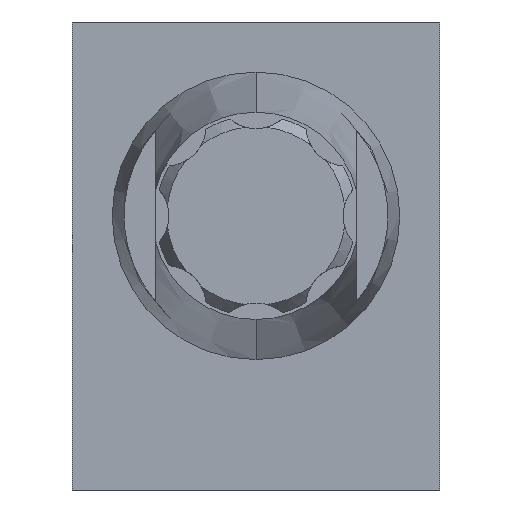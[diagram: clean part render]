
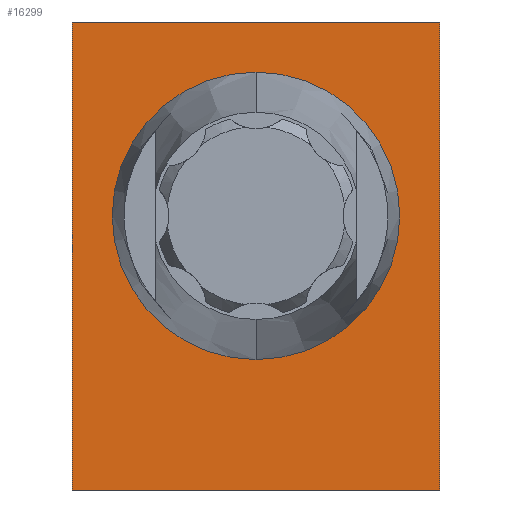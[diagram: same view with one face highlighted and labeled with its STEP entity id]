
A CAD part, left-side view. The second image highlights one B-rep face of the part: STEP entity #16299.
In plain terms, the highlighted planar face has unit normal (-1, 0, 0).
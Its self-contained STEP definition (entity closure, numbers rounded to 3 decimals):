
#63 = EDGE_CURVE ( 'NONE', #18638, #2881, #10608, .T. ) ;
#243 = EDGE_CURVE ( 'NONE', #2881, #18638, #16499, .T. ) ;
#295 = CARTESIAN_POINT ( 'NONE',  ( 0., 27.5, -50.5 ) ) ;
#837 = DIRECTION ( 'NONE',  ( 0., 0., 1. ) ) ;
#1206 = EDGE_LOOP ( 'NONE', ( #4706, #12461, #16789, #12179 ) ) ;
#1739 = ORIENTED_EDGE ( 'NONE', *, *, #243, .F. ) ;
#1908 = EDGE_CURVE ( 'NONE', #4051, #13345, #12808, .T. ) ;
#2454 = CARTESIAN_POINT ( 'NONE',  ( 0., 0., 0. ) ) ;
#2582 = CARTESIAN_POINT ( 'NONE',  ( 0., 27.5, -29. ) ) ;
#2881 = VERTEX_POINT ( 'NONE', #295 ) ;
#3536 = FACE_OUTER_BOUND ( 'NONE', #1206, .T. ) ;
#4031 = DIRECTION ( 'NONE',  ( 0., 0., -1. ) ) ;
#4051 = VERTEX_POINT ( 'NONE', #9977 ) ;
#4706 = ORIENTED_EDGE ( 'NONE', *, *, #7917, .T. ) ;
#5201 = PLANE ( 'NONE',  #15204 ) ;
#5341 = AXIS2_PLACEMENT_3D ( 'NONE', #17300, #8638, #18748 ) ;
#5385 = DIRECTION ( 'NONE',  ( 0., -1., 0. ) ) ;
#5483 = CARTESIAN_POINT ( 'NONE',  ( 0., 0., 0. ) ) ;
#5550 = CARTESIAN_POINT ( 'NONE',  ( 0., 55., 0. ) ) ;
#5735 = CARTESIAN_POINT ( 'NONE',  ( 0., 0., -70. ) ) ;
#5985 = CARTESIAN_POINT ( 'NONE',  ( 0., 55., -70. ) ) ;
#6237 = EDGE_LOOP ( 'NONE', ( #1739, #10157 ) ) ;
#6626 = DIRECTION ( 'NONE',  ( 0., 0., -1. ) ) ;
#7297 = FACE_BOUND ( 'NONE', #6237, .T. ) ;
#7917 = EDGE_CURVE ( 'NONE', #13401, #17668, #9415, .T. ) ;
#8089 = CARTESIAN_POINT ( 'NONE',  ( 0., 27.5, -7.5 ) ) ;
#8638 = DIRECTION ( 'NONE',  ( -1., 0., 0. ) ) ;
#8880 = DIRECTION ( 'NONE',  ( 0., -1., 0. ) ) ;
#9168 = EDGE_CURVE ( 'NONE', #4051, #13401, #10742, .T. ) ;
#9415 = LINE ( 'NONE', #5483, #9869 ) ;
#9471 = CARTESIAN_POINT ( 'NONE',  ( 0., 55., 0. ) ) ;
#9869 = VECTOR ( 'NONE', #15596, 1000. ) ;
#9977 = CARTESIAN_POINT ( 'NONE',  ( 0., 55., -70. ) ) ;
#10157 = ORIENTED_EDGE ( 'NONE', *, *, #63, .F. ) ;
#10608 = CIRCLE ( 'NONE', #13419, 21.5 ) ;
#10742 = LINE ( 'NONE', #5985, #13660 ) ;
#12179 = ORIENTED_EDGE ( 'NONE', *, *, #9168, .T. ) ;
#12461 = ORIENTED_EDGE ( 'NONE', *, *, #16432, .F. ) ;
#12610 = DIRECTION ( 'NONE',  ( -1., 0., 0. ) ) ;
#12808 = LINE ( 'NONE', #15224, #16236 ) ;
#13345 = VERTEX_POINT ( 'NONE', #5550 ) ;
#13401 = VERTEX_POINT ( 'NONE', #5735 ) ;
#13419 = AXIS2_PLACEMENT_3D ( 'NONE', #2582, #12610, #4031 ) ;
#13660 = VECTOR ( 'NONE', #8880, 1000. ) ;
#15204 = AXIS2_PLACEMENT_3D ( 'NONE', #9471, #15285, #6626 ) ;
#15224 = CARTESIAN_POINT ( 'NONE',  ( 0., 55., 0. ) ) ;
#15285 = DIRECTION ( 'NONE',  ( 1., 0., 0. ) ) ;
#15596 = DIRECTION ( 'NONE',  ( 0., 0., 1. ) ) ;
#16117 = VECTOR ( 'NONE', #5385, 1000. ) ;
#16236 = VECTOR ( 'NONE', #837, 1000. ) ;
#16299 = ADVANCED_FACE ( 'NONE', ( #3536, #7297 ), #5201, .F. ) ;
#16432 = EDGE_CURVE ( 'NONE', #13345, #17668, #16559, .T. ) ;
#16499 = CIRCLE ( 'NONE', #5341, 21.5 ) ;
#16559 = LINE ( 'NONE', #16933, #16117 ) ;
#16789 = ORIENTED_EDGE ( 'NONE', *, *, #1908, .F. ) ;
#16933 = CARTESIAN_POINT ( 'NONE',  ( 0., 55., 0. ) ) ;
#17300 = CARTESIAN_POINT ( 'NONE',  ( 0., 27.5, -29. ) ) ;
#17668 = VERTEX_POINT ( 'NONE', #2454 ) ;
#18638 = VERTEX_POINT ( 'NONE', #8089 ) ;
#18748 = DIRECTION ( 'NONE',  ( 0., 0., -1. ) ) ;
